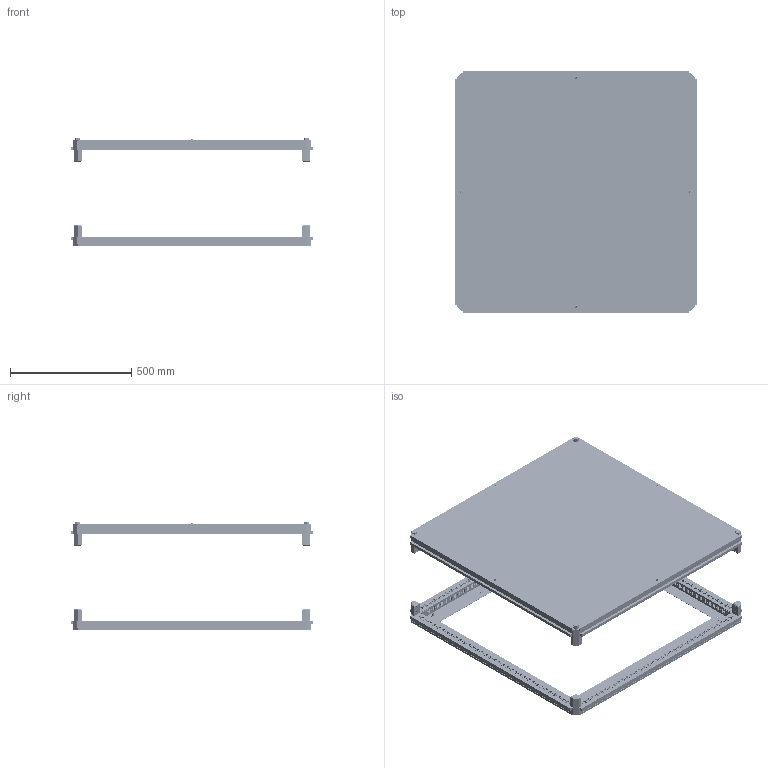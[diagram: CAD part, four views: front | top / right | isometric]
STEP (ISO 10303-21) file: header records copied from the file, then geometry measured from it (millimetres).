
FILE_DESCRIPTION (( 'STEP AP214' ), '1' );
FILE_NAME ('FO-00-KOF-100-100 Êðûøà è îñíîâàíèå (ïîä ôëàíåö) 1000õ1000 ìì.STEP', '2025-08-25T12:21:36', ( '' ), ( '' ), 'SwSTEP 2.0', 'SolidWorks 2023', '' );
FILE_SCHEMA (( 'AUTOMOTIVE_DESIGN' ));
Products named in the file (3): Основание под фланец 1000x1000; Крыша под фланец 1000х1000; FO-00-KOF-100-100 Крыша и основание (под фланец) 1000х1000 мм
Assembly tree (2 placements, depth 2):
  FO-00-KOF-100-100 Крыша и основание (под фланец) 1000х1000 мм
    Основание под фланец 1000x1000
    Крыша под фланец 1000х1000
Bounding box: 1000.1 x 1000.1 x 446.9 mm (x, y, z)
Volume: 5112204.6 mm3; surface area: 4747172.3 mm2
Topology: 2 solids, 46 shells, 6371 faces, 17978 edges, 11894 vertices
Faces by surface type: plane 3879, cylinder 2016, cone 268, bspline 192, torus 8, sphere 8
Entity records: 215060 total; most frequent: CARTESIAN_POINT 44092, ORIENTED_EDGE 35940, DIRECTION 33936, EDGE_CURVE 17970, VECTOR 12324, LINE 12324, VERTEX_POINT 11894, AXIS2_PLACEMENT_3D 10806
